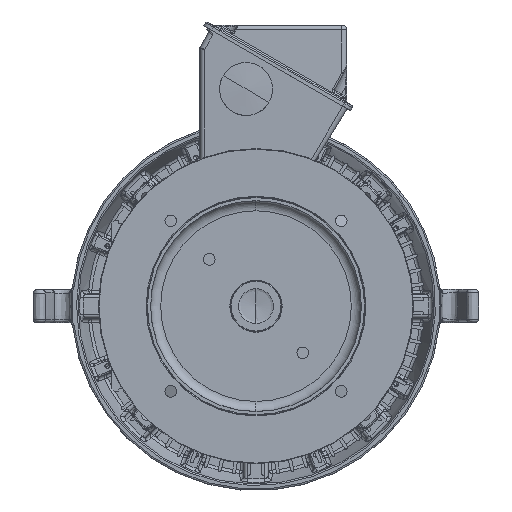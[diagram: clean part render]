
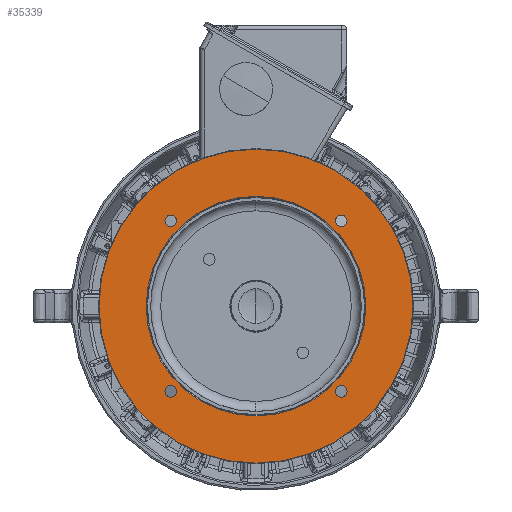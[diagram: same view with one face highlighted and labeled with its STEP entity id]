
A CAD part, front view. The second image highlights one B-rep face of the part: STEP entity #35339.
In plain terms, the highlighted planar face has unit normal (0, -1, 0) as drawn and (0, 0, -1) by its records, which use the part's own axes.
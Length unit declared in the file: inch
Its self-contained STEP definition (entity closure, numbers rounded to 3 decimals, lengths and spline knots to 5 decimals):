
#17420=CARTESIAN_POINT('',(0.,0.,-4.57));
#17421=DIRECTION('',(0.,0.,1.));
#17422=DIRECTION('',(0.,-1.,0.));
#17423=AXIS2_PLACEMENT_3D('',#17420,#17421,#17422);
#17425=CARTESIAN_POINT('',(0.,0.,-4.57));
#17426=DIRECTION('',(0.,0.,1.));
#17427=DIRECTION('',(0.,1.,0.));
#17428=AXIS2_PLACEMENT_3D('',#17425,#17426,#17427);
#17430=CARTESIAN_POINT('',(3.22617,3.22617,-4.57));
#17431=DIRECTION('',(0.,0.,1.));
#17432=DIRECTION('',(1.,0.,0.));
#17433=AXIS2_PLACEMENT_3D('',#17430,#17431,#17432);
#17435=CARTESIAN_POINT('',(3.22617,3.22617,-4.57));
#17436=DIRECTION('',(0.,0.,1.));
#17437=DIRECTION('',(-1.,0.,0.));
#17438=AXIS2_PLACEMENT_3D('',#17435,#17436,#17437);
#17440=CARTESIAN_POINT('',(3.22617,-3.22617,-4.57));
#17441=DIRECTION('',(0.,0.,1.));
#17442=DIRECTION('',(1.,0.,0.));
#17443=AXIS2_PLACEMENT_3D('',#17440,#17441,#17442);
#17445=CARTESIAN_POINT('',(3.22617,-3.22617,-4.57));
#17446=DIRECTION('',(0.,0.,1.));
#17447=DIRECTION('',(-1.,0.,0.));
#17448=AXIS2_PLACEMENT_3D('',#17445,#17446,#17447);
#17450=CARTESIAN_POINT('',(-3.22617,-3.22617,-4.57));
#17451=DIRECTION('',(0.,0.,1.));
#17452=DIRECTION('',(1.,0.,0.));
#17453=AXIS2_PLACEMENT_3D('',#17450,#17451,#17452);
#17455=CARTESIAN_POINT('',(-3.22617,-3.22617,-4.57));
#17456=DIRECTION('',(0.,0.,1.));
#17457=DIRECTION('',(-1.,0.,0.));
#17458=AXIS2_PLACEMENT_3D('',#17455,#17456,#17457);
#17460=CARTESIAN_POINT('',(-3.22617,3.22617,-4.57));
#17461=DIRECTION('',(0.,0.,1.));
#17462=DIRECTION('',(1.,0.,0.));
#17463=AXIS2_PLACEMENT_3D('',#17460,#17461,#17462);
#17465=CARTESIAN_POINT('',(-3.22617,3.22617,-4.57));
#17466=DIRECTION('',(0.,0.,1.));
#17467=DIRECTION('',(-1.,0.,0.));
#17468=AXIS2_PLACEMENT_3D('',#17465,#17466,#17467);
#17478=CARTESIAN_POINT('',(0.,0.,-4.57));
#17479=DIRECTION('',(0.,0.,-1.));
#17480=DIRECTION('',(0.,1.,0.));
#17481=AXIS2_PLACEMENT_3D('',#17478,#17479,#17480);
#17483=CARTESIAN_POINT('',(0.,0.,-4.57));
#17484=DIRECTION('',(0.,0.,1.));
#17485=DIRECTION('',(0.,1.,0.));
#17486=AXIS2_PLACEMENT_3D('',#17483,#17484,#17485);
#32677=CARTESIAN_POINT('',(0.,-5.94297,-4.57));
#32678=CARTESIAN_POINT('',(0.,5.94297,-4.57));
#32679=VERTEX_POINT('',#32677);
#32680=VERTEX_POINT('',#32678);
#32685=CARTESIAN_POINT('',(0.,4.156,-4.57));
#32686=VERTEX_POINT('',#32685);
#32697=CARTESIAN_POINT('',(0.,-4.156,-4.57));
#32698=VERTEX_POINT('',#32697);
#32761=CARTESIAN_POINT('',(3.44517,3.22617,-4.57));
#32762=CARTESIAN_POINT('',(3.00717,3.22617,-4.57));
#32763=VERTEX_POINT('',#32761);
#32764=VERTEX_POINT('',#32762);
#32769=CARTESIAN_POINT('',(3.44517,-3.22617,-4.57));
#32770=CARTESIAN_POINT('',(3.00717,-3.22617,-4.57));
#32771=VERTEX_POINT('',#32769);
#32772=VERTEX_POINT('',#32770);
#32777=CARTESIAN_POINT('',(-3.00717,-3.22617,-4.57));
#32778=CARTESIAN_POINT('',(-3.44517,-3.22617,-4.57));
#32779=VERTEX_POINT('',#32777);
#32780=VERTEX_POINT('',#32778);
#32785=CARTESIAN_POINT('',(-3.00717,3.22617,-4.57));
#32786=CARTESIAN_POINT('',(-3.44517,3.22617,-4.57));
#32787=VERTEX_POINT('',#32785);
#32788=VERTEX_POINT('',#32786);
#35299=CARTESIAN_POINT('',(0.,0.,-4.57));
#35300=DIRECTION('',(0.,0.,1.));
#35301=DIRECTION('',(0.,1.,0.));
#35302=AXIS2_PLACEMENT_3D('',#35299,#35300,#35301);
#35303=PLANE('',#35302);
#35304=ORIENTED_EDGE('',*,*,#35289,.T.);
#35306=ORIENTED_EDGE('',*,*,#35305,.T.);
#35307=EDGE_LOOP('',(#35304,#35306));
#35308=FACE_OUTER_BOUND('',#35307,.F.);
#35310=ORIENTED_EDGE('',*,*,#35309,.T.);
#35312=ORIENTED_EDGE('',*,*,#35311,.F.);
#35313=EDGE_LOOP('',(#35310,#35312));
#35314=FACE_BOUND('',#35313,.F.);
#35316=ORIENTED_EDGE('',*,*,#35315,.F.);
#35318=ORIENTED_EDGE('',*,*,#35317,.F.);
#35319=EDGE_LOOP('',(#35316,#35318));
#35320=FACE_BOUND('',#35319,.F.);
#35322=ORIENTED_EDGE('',*,*,#35321,.F.);
#35324=ORIENTED_EDGE('',*,*,#35323,.F.);
#35325=EDGE_LOOP('',(#35322,#35324));
#35326=FACE_BOUND('',#35325,.F.);
#35328=ORIENTED_EDGE('',*,*,#35327,.F.);
#35330=ORIENTED_EDGE('',*,*,#35329,.F.);
#35331=EDGE_LOOP('',(#35328,#35330));
#35332=FACE_BOUND('',#35331,.F.);
#35334=ORIENTED_EDGE('',*,*,#35333,.F.);
#35336=ORIENTED_EDGE('',*,*,#35335,.F.);
#35337=EDGE_LOOP('',(#35334,#35336));
#35338=FACE_BOUND('',#35337,.F.);
#35339=ADVANCED_FACE('',(#35308,#35314,#35320,#35326,#35332,#35338),#35303,.F.);
#17424=CIRCLE('',#17423,5.94297);
#17429=CIRCLE('',#17428,5.94297);
#17434=CIRCLE('',#17433,0.219);
#17439=CIRCLE('',#17438,0.219);
#17444=CIRCLE('',#17443,0.219);
#17449=CIRCLE('',#17448,0.219);
#17454=CIRCLE('',#17453,0.219);
#17459=CIRCLE('',#17458,0.219);
#17464=CIRCLE('',#17463,0.219);
#17469=CIRCLE('',#17468,0.219);
#17482=CIRCLE('',#17481,4.156);
#17487=CIRCLE('',#17486,4.156);
#35289=EDGE_CURVE('',#32679,#32680,#17424,.T.);
#35305=EDGE_CURVE('',#32680,#32679,#17429,.T.);
#35309=EDGE_CURVE('',#32686,#32698,#17482,.T.);
#35311=EDGE_CURVE('',#32686,#32698,#17487,.T.);
#35315=EDGE_CURVE('',#32763,#32764,#17434,.T.);
#35317=EDGE_CURVE('',#32764,#32763,#17439,.T.);
#35321=EDGE_CURVE('',#32771,#32772,#17444,.T.);
#35323=EDGE_CURVE('',#32772,#32771,#17449,.T.);
#35327=EDGE_CURVE('',#32779,#32780,#17454,.T.);
#35329=EDGE_CURVE('',#32780,#32779,#17459,.T.);
#35333=EDGE_CURVE('',#32787,#32788,#17464,.T.);
#35335=EDGE_CURVE('',#32788,#32787,#17469,.T.);
